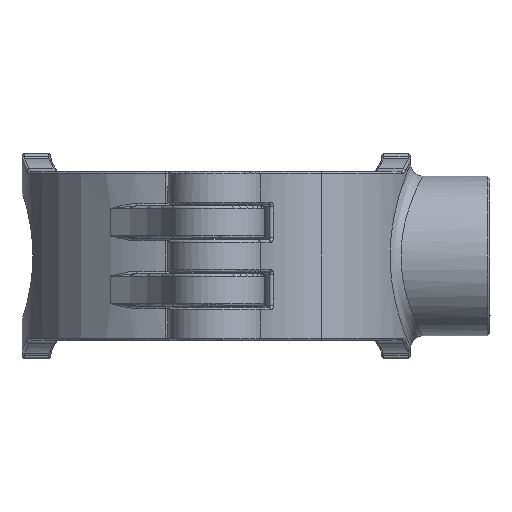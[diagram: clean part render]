
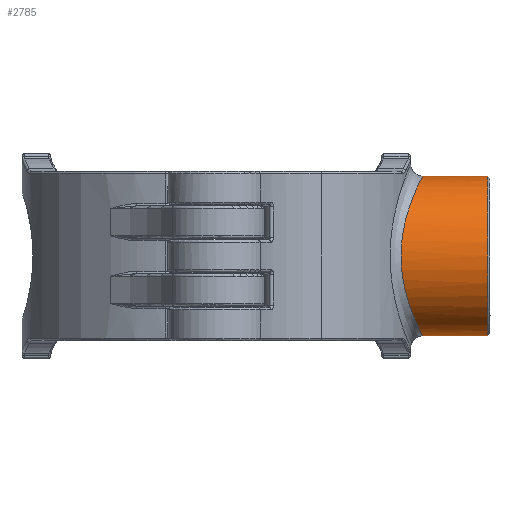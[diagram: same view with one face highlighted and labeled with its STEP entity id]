
A CAD part, left-side view. The second image highlights one B-rep face of the part: STEP entity #2785.
In plain terms, the highlighted cylindrical face has radius 16.5 mm (diameter 33 mm), a full revolution.
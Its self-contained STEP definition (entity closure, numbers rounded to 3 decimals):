
#1352=CIRCLE('',#10112,16.5);
#2785=ADVANCED_FACE('',(#3360,#3361),#3206,.T.);
#3206=CYLINDRICAL_SURFACE('',#10113,16.5);
#3360=FACE_BOUND('',#3717,.T.);
#3361=FACE_BOUND('',#3718,.T.);
#3717=EDGE_LOOP('',(#5516));
#3718=EDGE_LOOP('',(#5517));
#5516=ORIENTED_EDGE('',*,*,#8537,.T.);
#5517=ORIENTED_EDGE('',*,*,#8538,.T.);
#7370=VERTEX_POINT('',#20104);
#7371=VERTEX_POINT('',#20133);
#8537=EDGE_CURVE('',#7370,#7370,#1352,.T.);
#8538=EDGE_CURVE('',#7371,#7371,#9429,.T.);
#9429=B_SPLINE_CURVE_WITH_KNOTS('',3,(#20105,#20106,#20107,#20108,#20109,
#20110,#20111,#20112,#20113,#20114,#20115,#20116,#20117,#20118,#20119,#20120,
#20121,#20122,#20123,#20124,#20125,#20126,#20127,#20128,#20129,#20130,#20131,
#20132),.UNSPECIFIED.,.T.,.F.,(2,2,2,2,2,2,2,2,2,2,2,2,2,2,2,2),(-0.063,
0.,0.125,0.188,0.25,0.375,0.438,0.5,0.625,0.688,0.75,0.813,0.875,0.938,
1.,1.125),.UNSPECIFIED.);
#10112=AXIS2_PLACEMENT_3D('',#20103,#11873,#11874);
#10113=AXIS2_PLACEMENT_3D('',#20134,#11875,#11876);
#11873=DIRECTION('',(0.,1.,0.));
#11874=DIRECTION('',(0.,0.,-1.));
#11875=DIRECTION('',(0.,-1.,0.));
#11876=DIRECTION('',(0.,0.,-1.));
#20103=CARTESIAN_POINT('',(0.,-56.155,0.));
#20104=CARTESIAN_POINT('',(0.,-56.155,-16.5));
#20105=CARTESIAN_POINT('',(15.68,-38.714,5.574));
#20106=CARTESIAN_POINT('',(12.727,-40.182,11.358));
#20107=CARTESIAN_POINT('',(9.323,-41.606,14.292));
#20108=CARTESIAN_POINT('',(3.13,-42.615,16.346));
#20109=CARTESIAN_POINT('',(0.889,-42.761,16.62));
#20110=CARTESIAN_POINT('',(-3.461,-42.587,16.28));
#20111=CARTESIAN_POINT('',(-5.614,-42.267,15.662));
#20112=CARTESIAN_POINT('',(-11.324,-40.906,12.74));
#20113=CARTESIAN_POINT('',(-14.285,-39.443,9.34));
#20114=CARTESIAN_POINT('',(-16.348,-38.336,3.125));
#20115=CARTESIAN_POINT('',(-16.62,-38.172,0.897));
#20116=CARTESIAN_POINT('',(-16.28,-38.365,-3.461));
#20117=CARTESIAN_POINT('',(-15.665,-38.722,-5.605));
#20118=CARTESIAN_POINT('',(-12.751,-40.17,-11.309));
#20119=CARTESIAN_POINT('',(-9.304,-41.61,-14.298));
#20120=CARTESIAN_POINT('',(-3.138,-42.614,-16.343));
#20121=CARTESIAN_POINT('',(-0.91,-42.762,-16.621));
#20122=CARTESIAN_POINT('',(3.477,-42.587,-16.279));
#20123=CARTESIAN_POINT('',(5.589,-42.273,-15.675));
#20124=CARTESIAN_POINT('',(9.45,-41.353,-13.699));
#20125=CARTESIAN_POINT('',(11.123,-40.769,-12.372));
#20126=CARTESIAN_POINT('',(13.898,-39.624,-9.144));
#20127=CARTESIAN_POINT('',(14.976,-39.072,-7.254));
#20128=CARTESIAN_POINT('',(16.339,-38.341,-3.155));
#20129=CARTESIAN_POINT('',(16.619,-38.172,-0.918));
#20130=CARTESIAN_POINT('',(16.285,-38.362,3.437));
#20131=CARTESIAN_POINT('',(15.68,-38.714,5.574));
#20132=CARTESIAN_POINT('',(12.727,-40.182,11.358));
#20133=CARTESIAN_POINT('',(14.696,-39.204,7.502));
#20134=CARTESIAN_POINT('',(0.,-36.655,0.));
